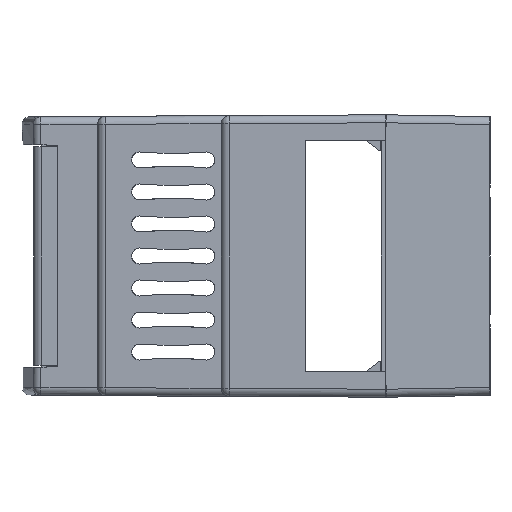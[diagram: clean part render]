
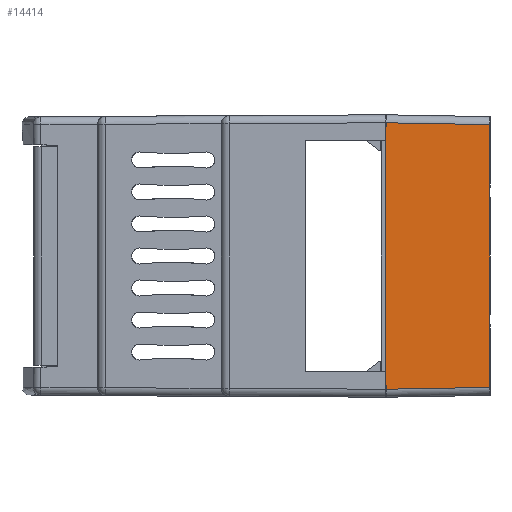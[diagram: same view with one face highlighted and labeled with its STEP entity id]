
A CAD part, left-side view. The second image highlights one B-rep face of the part: STEP entity #14414.
In plain terms, the highlighted planar face has unit normal (-1, -0.018, 0).
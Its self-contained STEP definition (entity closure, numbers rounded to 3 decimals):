
#435 = DIRECTION ( 'NONE',  ( 0.017, -1., 0.017 ) ) ;
#619 = CARTESIAN_POINT ( 'NONE',  ( -45.073, -13., -16.423 ) ) ;
#755 = CARTESIAN_POINT ( 'NONE',  ( -45.3, 0., 16.65 ) ) ;
#1113 = EDGE_CURVE ( 'NONE', #9083, #14983, #11175, .T. ) ;
#1553 = CARTESIAN_POINT ( 'NONE',  ( -45.29, -0.598, -16.64 ) ) ;
#1603 = DIRECTION ( 'NONE',  ( 0., 0., 1. ) ) ;
#2581 = ORIENTED_EDGE ( 'NONE', *, *, #10839, .T. ) ;
#2894 = LINE ( 'NONE', #9498, #10186 ) ;
#3848 = CARTESIAN_POINT ( 'NONE',  ( -45.073, -13., 16.423 ) ) ;
#4123 = ORIENTED_EDGE ( 'NONE', *, *, #1113, .F. ) ;
#4323 = EDGE_LOOP ( 'NONE', ( #4123, #17325, #2581, #17739 ) ) ;
#4842 = DIRECTION ( 'NONE',  ( -1., -0.017, 0. ) ) ;
#5321 = CARTESIAN_POINT ( 'NONE',  ( -45.3, 0., -16.65 ) ) ;
#6226 = FACE_OUTER_BOUND ( 'NONE', #4323, .T. ) ;
#7036 = CARTESIAN_POINT ( 'NONE',  ( -45.3, 0., 17.65 ) ) ;
#7447 = DIRECTION ( 'NONE',  ( 0.017, -1., 0. ) ) ;
#8094 = CARTESIAN_POINT ( 'NONE',  ( -45.3, 0.017, 16.65 ) ) ;
#8856 = LINE ( 'NONE', #1553, #15773 ) ;
#9083 = VERTEX_POINT ( 'NONE', #5321 ) ;
#9297 = DIRECTION ( 'NONE',  ( -0.017, 1., 0.017 ) ) ;
#9498 = CARTESIAN_POINT ( 'NONE',  ( -45.073, -13., -17.65 ) ) ;
#10186 = VECTOR ( 'NONE', #1603, 1000. ) ;
#10351 = VECTOR ( 'NONE', #12643, 1000. ) ;
#10579 = EDGE_CURVE ( 'NONE', #9083, #17967, #8856, .T. ) ;
#10839 = EDGE_CURVE ( 'NONE', #17967, #14175, #2894, .T. ) ;
#11175 = LINE ( 'NONE', #7036, #10351 ) ;
#11848 = PLANE ( 'NONE',  #15266 ) ;
#12098 = VECTOR ( 'NONE', #9297, 1000. ) ;
#12643 = DIRECTION ( 'NONE',  ( 0., 0., 1. ) ) ;
#14175 = VERTEX_POINT ( 'NONE', #3848 ) ;
#14414 = ADVANCED_FACE ( 'NONE', ( #6226 ), #11848, .T. ) ;
#14983 = VERTEX_POINT ( 'NONE', #755 ) ;
#15266 = AXIS2_PLACEMENT_3D ( 'NONE', #17313, #4842, #7447 ) ;
#15773 = VECTOR ( 'NONE', #435, 1000. ) ;
#15817 = EDGE_CURVE ( 'NONE', #14175, #14983, #16311, .T. ) ;
#16311 = LINE ( 'NONE', #8094, #12098 ) ;
#17313 = CARTESIAN_POINT ( 'NONE',  ( -45.3, 0., 17.65 ) ) ;
#17325 = ORIENTED_EDGE ( 'NONE', *, *, #10579, .T. ) ;
#17739 = ORIENTED_EDGE ( 'NONE', *, *, #15817, .T. ) ;
#17967 = VERTEX_POINT ( 'NONE', #619 ) ;
